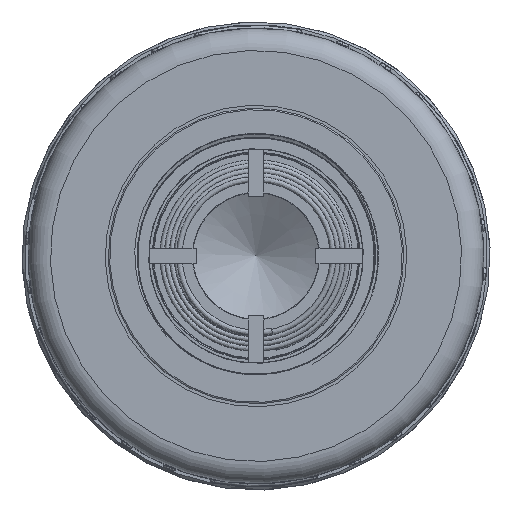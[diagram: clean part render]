
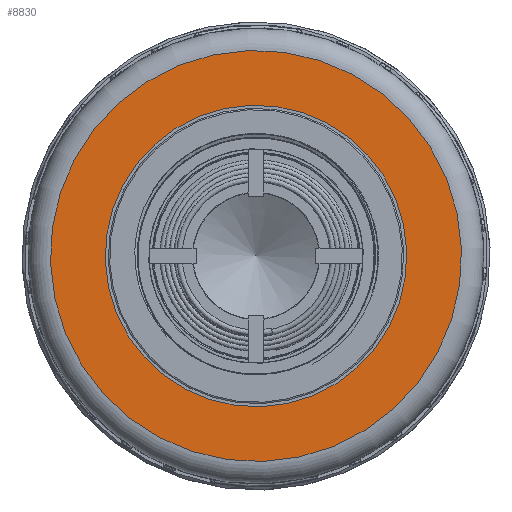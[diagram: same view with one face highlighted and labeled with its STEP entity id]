
A CAD part, front view. The second image highlights one B-rep face of the part: STEP entity #8830.
In plain terms, the highlighted planar face has unit normal (0, -1, 0).
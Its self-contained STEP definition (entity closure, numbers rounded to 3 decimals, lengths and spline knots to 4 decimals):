
#1724=FACE_BOUND('',#2546,.T.);
#2006=FACE_OUTER_BOUND('',#2545,.T.);
#2545=EDGE_LOOP('',(#6346));
#2546=EDGE_LOOP('',(#6347));
#3131=CIRCLE('',#9451,7.375);
#3132=CIRCLE('',#9452,5.41);
#3715=VERTEX_POINT('',#40467);
#3716=VERTEX_POINT('',#40469);
#4712=EDGE_CURVE('',#3715,#3715,#3131,.T.);
#4713=EDGE_CURVE('',#3716,#3716,#3132,.T.);
#6346=ORIENTED_EDGE('',*,*,#4712,.F.);
#6347=ORIENTED_EDGE('',*,*,#4713,.T.);
#7992=PLANE('',#9450);
#8830=ADVANCED_FACE('',(#2006,#1724),#7992,.T.);
#9450=AXIS2_PLACEMENT_3D('',#40466,#10750,#10751);
#9451=AXIS2_PLACEMENT_3D('',#40468,#10752,#10753);
#9452=AXIS2_PLACEMENT_3D('',#40470,#10754,#10755);
#10750=DIRECTION('center_axis',(0.,-1.,0.));
#10751=DIRECTION('ref_axis',(0.469,0.,0.883));
#10752=DIRECTION('center_axis',(0.,1.,0.));
#10753=DIRECTION('ref_axis',(-0.883,0.,0.469));
#10754=DIRECTION('center_axis',(0.,1.,0.));
#10755=DIRECTION('ref_axis',(-0.883,0.,0.469));
#40466=CARTESIAN_POINT('Origin',(6.5147,-8.6,-3.4567));
#40467=CARTESIAN_POINT('',(6.5147,-8.6,-3.4567));
#40468=CARTESIAN_POINT('Origin',(0.,-8.6,0.));
#40469=CARTESIAN_POINT('',(4.7789,-8.6,-2.5357));
#40470=CARTESIAN_POINT('Origin',(0.,-8.6,0.));
